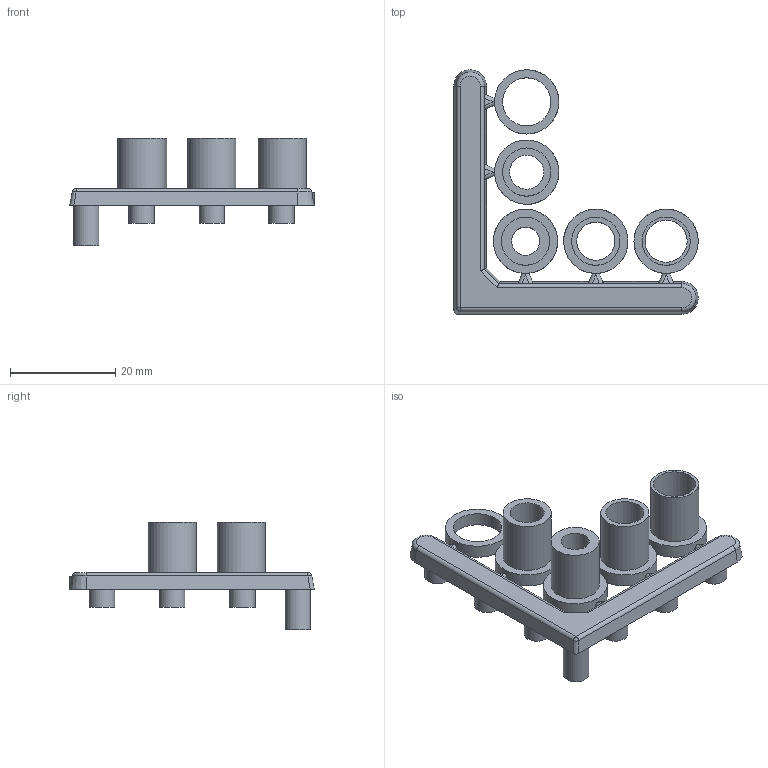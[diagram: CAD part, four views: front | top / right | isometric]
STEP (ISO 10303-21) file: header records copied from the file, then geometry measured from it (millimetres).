
FILE_DESCRIPTION((''),'2;1');
FILE_NAME('C:\Users\J_DiPietro.NTC\Desktop\comp_insert 9-15.stp','2014-10-30T11:47:21',('j_dipietro'),(''),'Autodesk Inventor 2012','Autodesk Inventor 2012','');
FILE_SCHEMA(('CONFIG_CONTROL_DESIGN'));
Length unit declared in the file: inch
Products named in the file (1): comp_insert 9-15
Bounding box: 46.38 x 46.38 x 20.32 mm (x, y, z)
Volume: 4188.9 mm3; surface area: 5502.4 mm2
Topology: 1 solids, 1 shells, 80 faces, 202 edges, 135 vertices
Faces by surface type: plane 38, cylinder 37, cone 2, torus 2, sphere 1
Full cylindrical faces by diameter (mm): 4.826 x7, 5.334 x1, 6.477 x1, 7.239 x1, 8.001 x1, 9.144 x5, 12.192 x5
Entity records: 2425 total; most frequent: CARTESIAN_POINT 511, DIRECTION 395, ORIENTED_EDGE 356, EDGE_CURVE 178, AXIS2_PLACEMENT_3D 156, VERTEX_POINT 132, EDGE_LOOP 122, VECTOR 83
